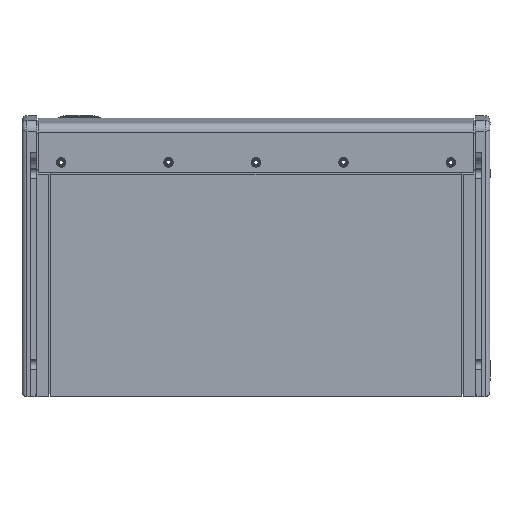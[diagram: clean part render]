
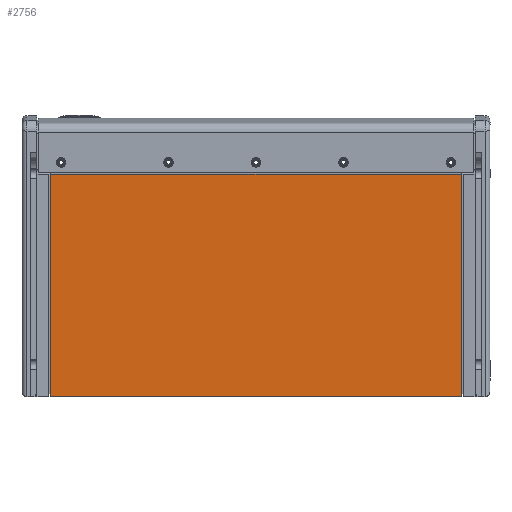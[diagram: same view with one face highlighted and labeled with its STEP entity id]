
A CAD part, front view. The second image highlights one B-rep face of the part: STEP entity #2756.
In plain terms, the highlighted planar face has unit normal (0, -0.999, -0.052) as drawn and (0, 0, -1) by its records, which use the part's own axes.
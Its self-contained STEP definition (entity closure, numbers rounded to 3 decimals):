
#227 = VECTOR ( 'NONE', #12961, 1000. ) ;
#522 = LINE ( 'NONE', #20557, #24599 ) ;
#1421 = CARTESIAN_POINT ( 'NONE',  ( 129.329, -261.874, -18.288 ) ) ;
#2097 = ORIENTED_EDGE ( 'NONE', *, *, #4689, .T. ) ;
#2176 = CARTESIAN_POINT ( 'NONE',  ( -154.516, -261.874, -18.288 ) ) ;
#2535 = ORIENTED_EDGE ( 'NONE', *, *, #11190, .T. ) ;
#2588 = ORIENTED_EDGE ( 'NONE', *, *, #14683, .F. ) ;
#2756 = ADVANCED_FACE ( 'NONE', ( #7024 ), #8962, .F. ) ;
#4689 = EDGE_CURVE ( 'NONE', #15394, #7832, #16031, .T. ) ;
#4785 = DIRECTION ( 'NONE',  ( 1., 0., 0. ) ) ;
#5373 = CARTESIAN_POINT ( 'NONE',  ( 129.329, 270.256, -18.288 ) ) ;
#5860 = VECTOR ( 'NONE', #23581, 1000. ) ;
#5863 = CARTESIAN_POINT ( 'NONE',  ( -154.516, 261.874, -18.288 ) ) ;
#6432 = CARTESIAN_POINT ( 'NONE',  ( -154.516, 261.874, -18.288 ) ) ;
#6892 = CARTESIAN_POINT ( 'NONE',  ( -154.516, 270.256, -18.288 ) ) ;
#7015 = LINE ( 'NONE', #6892, #227 ) ;
#7024 = FACE_OUTER_BOUND ( 'NONE', #18054, .T. ) ;
#7832 = VERTEX_POINT ( 'NONE', #1421 ) ;
#8962 = PLANE ( 'NONE',  #14949 ) ;
#11190 = EDGE_CURVE ( 'NONE', #13945, #15394, #17757, .T. ) ;
#12961 = DIRECTION ( 'NONE',  ( 0., -1., 0. ) ) ;
#13945 = VERTEX_POINT ( 'NONE', #6432 ) ;
#14683 = EDGE_CURVE ( 'NONE', #19576, #7832, #522, .T. ) ;
#14875 = ORIENTED_EDGE ( 'NONE', *, *, #18985, .F. ) ;
#14949 = AXIS2_PLACEMENT_3D ( 'NONE', #24616, #18797, #20480 ) ;
#15394 = VERTEX_POINT ( 'NONE', #18323 ) ;
#16031 = LINE ( 'NONE', #5373, #19504 ) ;
#17757 = LINE ( 'NONE', #5863, #5860 ) ;
#18054 = EDGE_LOOP ( 'NONE', ( #2535, #2097, #2588, #14875 ) ) ;
#18323 = CARTESIAN_POINT ( 'NONE',  ( 129.329, 261.874, -18.288 ) ) ;
#18797 = DIRECTION ( 'NONE',  ( 0., 0., 1. ) ) ;
#18985 = EDGE_CURVE ( 'NONE', #13945, #19576, #7015, .T. ) ;
#19504 = VECTOR ( 'NONE', #19902, 1000. ) ;
#19576 = VERTEX_POINT ( 'NONE', #2176 ) ;
#19902 = DIRECTION ( 'NONE',  ( 0., -1., 0. ) ) ;
#20480 = DIRECTION ( 'NONE',  ( 1., 0., 0. ) ) ;
#20557 = CARTESIAN_POINT ( 'NONE',  ( -154.516, -261.874, -18.288 ) ) ;
#23581 = DIRECTION ( 'NONE',  ( 1., 0., 0. ) ) ;
#24599 = VECTOR ( 'NONE', #4785, 1000. ) ;
#24616 = CARTESIAN_POINT ( 'NONE',  ( 129.329, 270.256, -18.288 ) ) ;
